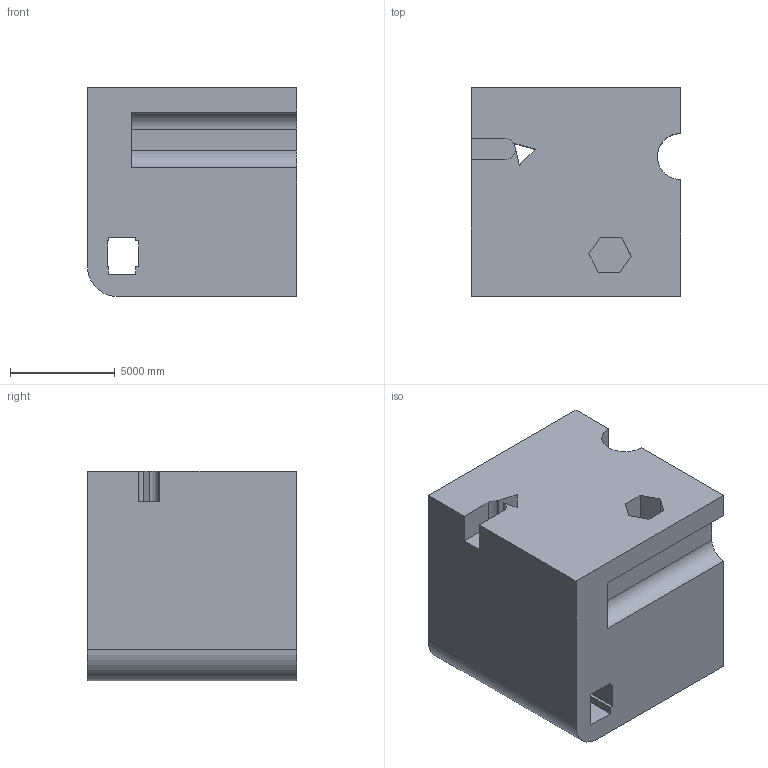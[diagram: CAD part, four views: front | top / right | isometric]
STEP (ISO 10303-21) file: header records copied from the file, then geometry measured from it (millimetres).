
FILE_DESCRIPTION (( 'STEP AP203' ), '1' );
FILE_NAME ('843.STEP', '2022-07-29T13:38:41', ( 'user' ), ( '' ), 'SwSTEP 2.0', 'SolidWorks 2021', '' );
FILE_SCHEMA (( 'CONFIG_CONTROL_DESIGN' ));
Length unit declared in the file: centimetre
Products named in the file (1): 843
Bounding box: 10000 x 10000 x 10000 mm (x, y, z)
Volume: 900305336803.2 mm3; surface area: 744414064.4 mm2
Topology: 1 solids, 1 shells, 52 faces, 159 edges, 106 vertices
Faces by surface type: plane 44, cylinder 8
Entity records: 1852 total; most frequent: ORIENTED_EDGE 318, CARTESIAN_POINT 318, DIRECTION 285, EDGE_CURVE 159, LINE 139, VECTOR 139, VERTEX_POINT 106, AXIS2_PLACEMENT_3D 73
